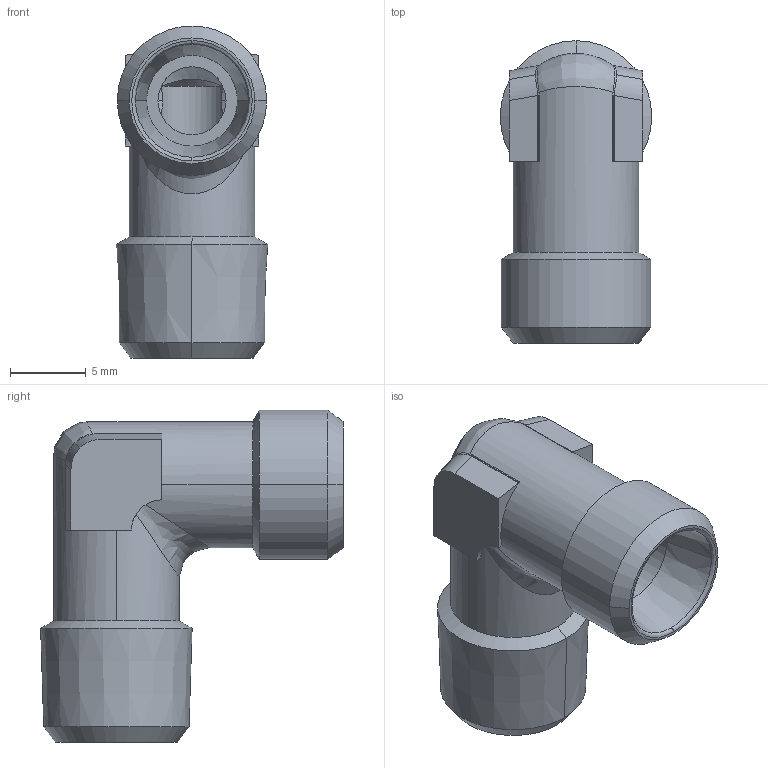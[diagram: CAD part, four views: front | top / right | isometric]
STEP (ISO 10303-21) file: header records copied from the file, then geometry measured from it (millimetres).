
FILE_DESCRIPTION((''),'2;1');
FILE_NAME('102002.stp','2007-10-30T16:31:52',(''),(''),'AutoCAD STEP 2000i','AutoCAD 2000i',', , ');
FILE_SCHEMA(('CONFIG_CONTROL_DESIGN'));
Length unit declared in the file: millimetre
Products named in the file (2): 102002.0; 1090#0
Assembly tree (1 placements, depth 2):
  102002.0
    1090#0
Bounding box: 10.01 x 20 x 21.94 mm (x, y, z)
Volume: 1421.1 mm3; surface area: 1499.7 mm2
Topology: 1 solids, 1 shells, 85 faces, 204 edges, 122 vertices
Faces by surface type: cylinder 36, cone 24, plane 13, bspline 12
Entity records: 3471 total; most frequent: CARTESIAN_POINT 1408, DIRECTION 426, ORIENTED_EDGE 408, EDGE_CURVE 204, AXIS2_PLACEMENT_3D 178, VERTEX_POINT 122, CIRCLE 88, EDGE_LOOP 88
